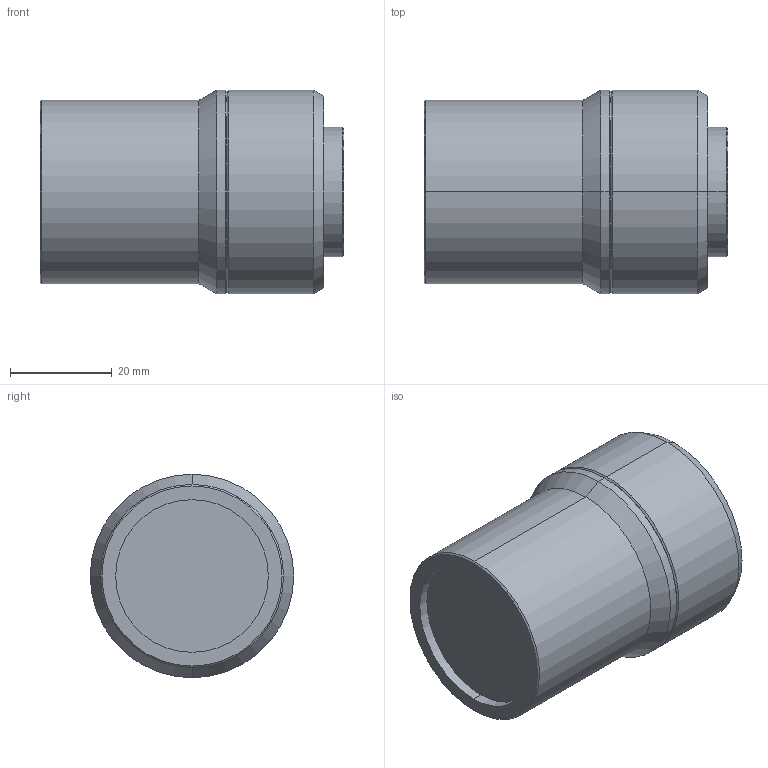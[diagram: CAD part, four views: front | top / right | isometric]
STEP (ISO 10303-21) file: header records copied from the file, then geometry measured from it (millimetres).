
FILE_DESCRIPTION (( 'STEP AP203' ), '1' );
FILE_NAME ('WWT118-0244-220.STEP', '2021-07-30T00:38:16', ( '' ), ( '' ), 'SwSTEP 2.0', 'SolidWorks 2017', '' );
FILE_SCHEMA (( 'CONFIG_CONTROL_DESIGN' ));
Length unit declared in the file: millimetre
Products named in the file (1): WWT118-0244-220
Bounding box: 59.7 x 40 x 40 mm (x, y, z)
Volume: 62571.1 mm3; surface area: 9316.9 mm2
Topology: 1 solids, 1 shells, 26 faces, 50 edges, 28 vertices
Faces by surface type: cone 12, cylinder 10, plane 4
Entity records: 731 total; most frequent: DIRECTION 132, CARTESIAN_POINT 105, ORIENTED_EDGE 100, AXIS2_PLACEMENT_3D 55, EDGE_CURVE 50, CIRCLE 28, EDGE_LOOP 28, VERTEX_POINT 28
